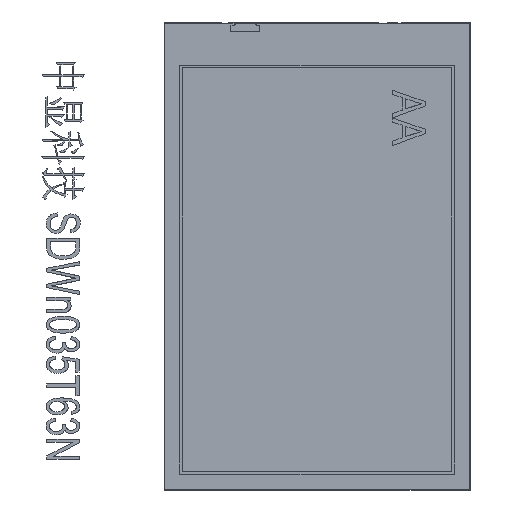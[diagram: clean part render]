
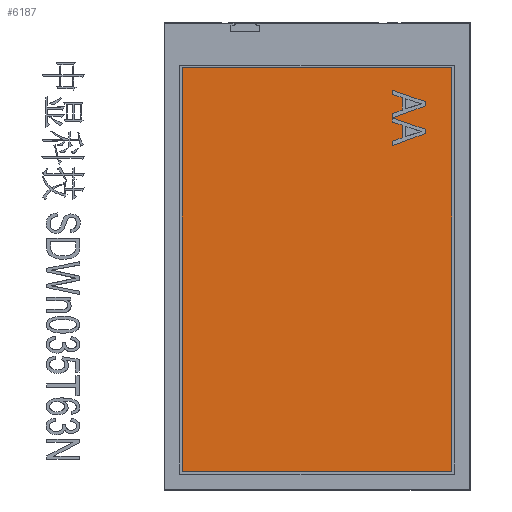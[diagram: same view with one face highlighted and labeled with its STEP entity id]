
A CAD part, top view. The second image highlights one B-rep face of the part: STEP entity #6187.
In plain terms, the highlighted planar face has unit normal (0, 0, 1).
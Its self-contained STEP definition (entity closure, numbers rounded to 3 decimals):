
#6187=ADVANCED_FACE('',(#7941),#7104,.T.);
#7104=PLANE('',#20899);
#7941=FACE_OUTER_BOUND('',#8868,.T.);
#8868=EDGE_LOOP('',(#11723,#11724,#11725,#11726));
#11723=ORIENTED_EDGE('',*,*,#16222,.T.);
#11724=ORIENTED_EDGE('',*,*,#16225,.T.);
#11725=ORIENTED_EDGE('',*,*,#16227,.T.);
#11726=ORIENTED_EDGE('',*,*,#16228,.T.);
#14377=VERTEX_POINT('',#27217);
#14378=VERTEX_POINT('',#27219);
#14379=VERTEX_POINT('',#27223);
#14380=VERTEX_POINT('',#27227);
#16222=EDGE_CURVE('',#14378,#14377,#18333,.T.);
#16225=EDGE_CURVE('',#14377,#14379,#18336,.T.);
#16227=EDGE_CURVE('',#14379,#14380,#18338,.T.);
#16228=EDGE_CURVE('',#14380,#14378,#18339,.T.);
#18333=LINE('',#27218,#19858);
#18336=LINE('',#27224,#19861);
#18338=LINE('',#27228,#19863);
#18339=LINE('',#27230,#19864);
#19858=VECTOR('',#23603,1.);
#19861=VECTOR('',#23608,1.);
#19863=VECTOR('',#23612,1.);
#19864=VECTOR('',#23615,1.);
#20899=AXIS2_PLACEMENT_3D('',#27232,#23618,#23619);
#23603=DIRECTION('',(0.,-1.,0.));
#23608=DIRECTION('',(1.,0.,0.));
#23612=DIRECTION('',(0.,1.,0.));
#23615=DIRECTION('',(-1.,0.,0.));
#23618=DIRECTION('',(0.,0.,1.));
#23619=DIRECTION('',(1.,0.,0.));
#27217=CARTESIAN_POINT('',(-10.587,-43.2,4.242));
#27218=CARTESIAN_POINT('',(-10.587,30.2,4.242));
#27219=CARTESIAN_POINT('',(-10.587,30.2,4.242));
#27223=CARTESIAN_POINT('',(38.413,-43.2,4.242));
#27224=CARTESIAN_POINT('',(-10.587,-43.2,4.242));
#27227=CARTESIAN_POINT('',(38.413,30.2,4.242));
#27228=CARTESIAN_POINT('',(38.413,-43.2,4.242));
#27230=CARTESIAN_POINT('',(38.413,30.2,4.242));
#27232=CARTESIAN_POINT('',(0.,0.,4.242));
